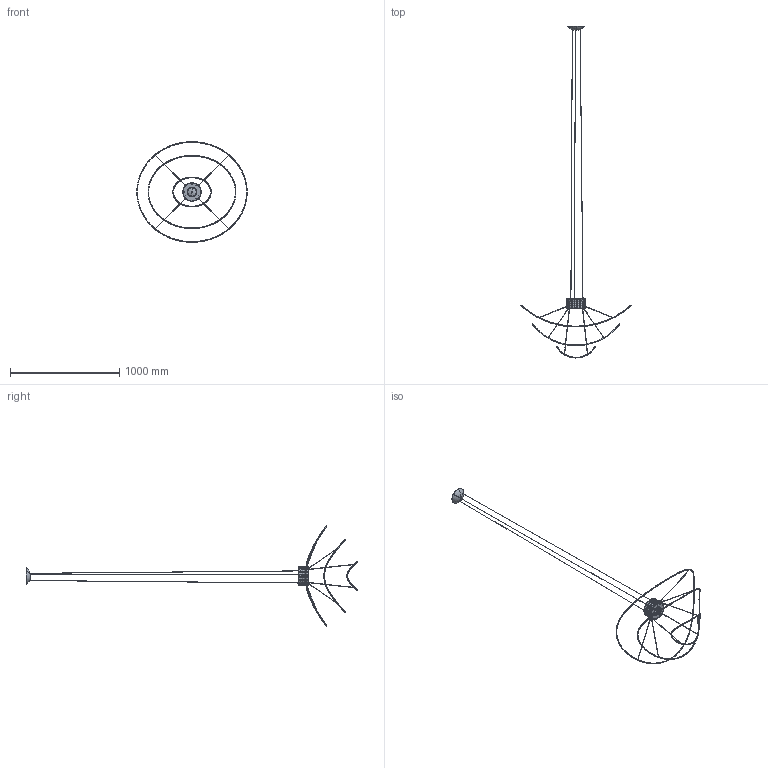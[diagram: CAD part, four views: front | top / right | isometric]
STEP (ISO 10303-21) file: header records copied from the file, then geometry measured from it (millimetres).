
FILE_DESCRIPTION (( 'STEP AP203' ), '1' );
FILE_NAME ('SPHOOPS3XXXXLED-3D.STEP', '2015-02-24T18:56:31', ( '' ), ( '' ), 'SwSTEP 2.0', 'SolidWorks 2014', '' );
FILE_SCHEMA (( 'CONFIG_CONTROL_DESIGN' ));
Length unit declared in the file: millimetre
Products named in the file (21): WSAXO018CMHB014500; WSAXO018CMHB010000; WSAXO018CMHF010000; WSAXO018CMHE010000; WSAXO018CMJB014500; WSAXO018CMHH010000; WSAXO018CMHG010000; WSAXO018CMJC014500; WSAXO018CMFB010000; MSPHOOPSLED-02-3D; WSAXO018CMCA014501; WSAXO018CMCE014502; WSCA10493000B2930B; ROSONESPHOOPSLED-3D; WSAXO018CMCI010001; MSPHOOPSLED-03-3D; MSPHOOPSLED-3D; WSAXO018CMHD010000; WSAXO018CMHC010000; WSAXO018CMJA014500; SPHOOPS3XXXXLED-3D
Assembly tree (42 placements, depth 4):
  SPHOOPS3XXXXLED-3D
    WSAXO018CMHB014500  x10
    WSAXO018CMJB014500
      WSAXO018CMHB010000
      WSAXO018CMHF010000
      WSAXO018CMHE010000  x4
    WSAXO018CMJC014500
      WSAXO018CMHB010000
      WSAXO018CMHH010000
      WSAXO018CMHG010000  x4
    MSPHOOPSLED-3D
      MSPHOOPSLED-02-3D
        WSAXO018CMFB010000
      WSAXO018CMCA014501
      WSAXO018CMCE014502
      WSCA10493000B2930B  x3
      ROSONESPHOOPSLED-3D
      MSPHOOPSLED-03-3D
        WSAXO018CMCI010001
    WSAXO018CMJA014500
      WSAXO018CMHB010000
      WSAXO018CMHD010000
      WSAXO018CMHC010000  x4
Bounding box: 1012 x 3042.65 x 920.95 mm (x, y, z)
Volume: 599810.9 mm3; surface area: 583970.4 mm2
Topology: 37 solids, 37 shells, 510 faces, 1303 edges, 840 vertices
Faces by surface type: cylinder 304, plane 110, torus 74, bspline 12, cone 10
Entity records: 18551 total; most frequent: CARTESIAN_POINT 4569, DIRECTION 2599, ORIENTED_EDGE 2242, EDGE_CURVE 1121, AXIS2_PLACEMENT_3D 1075, VERTEX_POINT 736, CIRCLE 628, EDGE_LOOP 491
